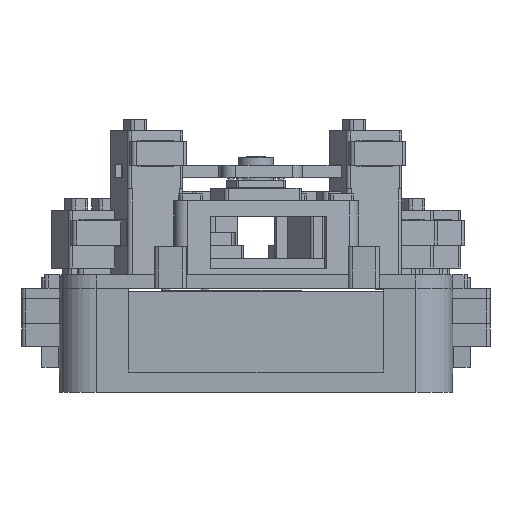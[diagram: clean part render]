
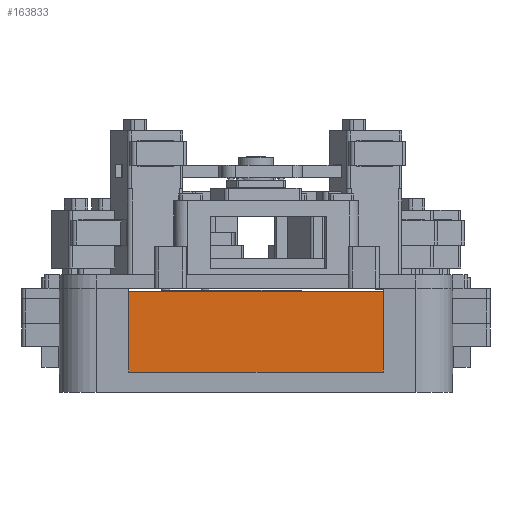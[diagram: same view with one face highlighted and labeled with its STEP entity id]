
A CAD part, left-side view. The second image highlights one B-rep face of the part: STEP entity #163833.
In plain terms, the highlighted planar face has unit normal (-1, 0, 0).
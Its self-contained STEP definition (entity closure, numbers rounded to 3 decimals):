
#163833 = ADVANCED_FACE('',(#163834),#163848,.F.);
#163834 = FACE_BOUND('',#163835,.F.);
#163835 = EDGE_LOOP('',(#163836,#163871,#163899,#163927));
#163836 = ORIENTED_EDGE('',*,*,#163837,.F.);
#163837 = EDGE_CURVE('',#163838,#163840,#163842,.T.);
#163838 = VERTEX_POINT('',#163839);
#163839 = CARTESIAN_POINT('',(-47.,-26.9,17.8));
#163840 = VERTEX_POINT('',#163841);
#163841 = CARTESIAN_POINT('',(-47.,26.9,17.8));
#163842 = SURFACE_CURVE('',#163843,(#163847,#163859),.PCURVE_S1.);
#163843 = LINE('',#163844,#163845);
#163844 = CARTESIAN_POINT('',(-47.,-31.,17.8));
#163845 = VECTOR('',#163846,1.);
#163846 = DIRECTION('',(0.,1.,0.));
#163847 = PCURVE('',#163848,#163853);
#163848 = PLANE('',#163849);
#163849 = AXIS2_PLACEMENT_3D('',#163850,#163851,#163852);
#163850 = CARTESIAN_POINT('',(-47.,-31.,2.8));
#163851 = DIRECTION('',(1.,0.,0.));
#163852 = DIRECTION('',(0.,0.,1.));
#163853 = DEFINITIONAL_REPRESENTATION('',(#163854),#163858);
#163854 = LINE('',#163855,#163856);
#163855 = CARTESIAN_POINT('',(15.,0.));
#163856 = VECTOR('',#163857,1.);
#163857 = DIRECTION('',(0.,-1.));
#163858 = ( GEOMETRIC_REPRESENTATION_CONTEXT(2) 
PARAMETRIC_REPRESENTATION_CONTEXT() REPRESENTATION_CONTEXT('2D SPACE',''
  ) );
#163859 = PCURVE('',#163860,#163865);
#163860 = PLANE('',#163861);
#163861 = AXIS2_PLACEMENT_3D('',#163862,#163863,#163864);
#163862 = CARTESIAN_POINT('',(-47.,-31.,17.8));
#163863 = DIRECTION('',(0.,0.,1.));
#163864 = DIRECTION('',(1.,0.,0.));
#163865 = DEFINITIONAL_REPRESENTATION('',(#163866),#163870);
#163866 = LINE('',#163867,#163868);
#163867 = CARTESIAN_POINT('',(0.,0.));
#163868 = VECTOR('',#163869,1.);
#163869 = DIRECTION('',(0.,1.));
#163870 = ( GEOMETRIC_REPRESENTATION_CONTEXT(2) 
PARAMETRIC_REPRESENTATION_CONTEXT() REPRESENTATION_CONTEXT('2D SPACE',''
  ) );
#163871 = ORIENTED_EDGE('',*,*,#163872,.F.);
#163872 = EDGE_CURVE('',#163873,#163838,#163875,.T.);
#163873 = VERTEX_POINT('',#163874);
#163874 = CARTESIAN_POINT('',(-47.,-26.9,2.8));
#163875 = SURFACE_CURVE('',#163876,(#163880,#163887),.PCURVE_S1.);
#163876 = LINE('',#163877,#163878);
#163877 = CARTESIAN_POINT('',(-47.,-26.9,2.8));
#163878 = VECTOR('',#163879,1.);
#163879 = DIRECTION('',(0.,0.,1.));
#163880 = PCURVE('',#163848,#163881);
#163881 = DEFINITIONAL_REPRESENTATION('',(#163882),#163886);
#163882 = LINE('',#163883,#163884);
#163883 = CARTESIAN_POINT('',(0.,-4.1));
#163884 = VECTOR('',#163885,1.);
#163885 = DIRECTION('',(1.,0.));
#163886 = ( GEOMETRIC_REPRESENTATION_CONTEXT(2) 
PARAMETRIC_REPRESENTATION_CONTEXT() REPRESENTATION_CONTEXT('2D SPACE',''
  ) );
#163887 = PCURVE('',#163888,#163893);
#163888 = CYLINDRICAL_SURFACE('',#163889,4.1);
#163889 = AXIS2_PLACEMENT_3D('',#163890,#163891,#163892);
#163890 = CARTESIAN_POINT('',(-42.9,-26.9,2.8));
#163891 = DIRECTION('',(0.,0.,1.));
#163892 = DIRECTION('',(-1.,-0.,0.));
#163893 = DEFINITIONAL_REPRESENTATION('',(#163894),#163898);
#163894 = LINE('',#163895,#163896);
#163895 = CARTESIAN_POINT('',(0.,0.));
#163896 = VECTOR('',#163897,1.);
#163897 = DIRECTION('',(0.,1.));
#163898 = ( GEOMETRIC_REPRESENTATION_CONTEXT(2) 
PARAMETRIC_REPRESENTATION_CONTEXT() REPRESENTATION_CONTEXT('2D SPACE',''
  ) );
#163899 = ORIENTED_EDGE('',*,*,#163900,.T.);
#163900 = EDGE_CURVE('',#163873,#163901,#163903,.T.);
#163901 = VERTEX_POINT('',#163902);
#163902 = CARTESIAN_POINT('',(-47.,26.9,2.8));
#163903 = SURFACE_CURVE('',#163904,(#163908,#163915),.PCURVE_S1.);
#163904 = LINE('',#163905,#163906);
#163905 = CARTESIAN_POINT('',(-47.,-31.,2.8));
#163906 = VECTOR('',#163907,1.);
#163907 = DIRECTION('',(0.,1.,0.));
#163908 = PCURVE('',#163848,#163909);
#163909 = DEFINITIONAL_REPRESENTATION('',(#163910),#163914);
#163910 = LINE('',#163911,#163912);
#163911 = CARTESIAN_POINT('',(0.,0.));
#163912 = VECTOR('',#163913,1.);
#163913 = DIRECTION('',(0.,-1.));
#163914 = ( GEOMETRIC_REPRESENTATION_CONTEXT(2) 
PARAMETRIC_REPRESENTATION_CONTEXT() REPRESENTATION_CONTEXT('2D SPACE',''
  ) );
#163915 = PCURVE('',#163916,#163921);
#163916 = PLANE('',#163917);
#163917 = AXIS2_PLACEMENT_3D('',#163918,#163919,#163920);
#163918 = CARTESIAN_POINT('',(-47.,-31.,2.8));
#163919 = DIRECTION('',(0.,0.,1.));
#163920 = DIRECTION('',(1.,0.,0.));
#163921 = DEFINITIONAL_REPRESENTATION('',(#163922),#163926);
#163922 = LINE('',#163923,#163924);
#163923 = CARTESIAN_POINT('',(0.,0.));
#163924 = VECTOR('',#163925,1.);
#163925 = DIRECTION('',(0.,1.));
#163926 = ( GEOMETRIC_REPRESENTATION_CONTEXT(2) 
PARAMETRIC_REPRESENTATION_CONTEXT() REPRESENTATION_CONTEXT('2D SPACE',''
  ) );
#163927 = ORIENTED_EDGE('',*,*,#163928,.T.);
#163928 = EDGE_CURVE('',#163901,#163840,#163929,.T.);
#163929 = SURFACE_CURVE('',#163930,(#163934,#163941),.PCURVE_S1.);
#163930 = LINE('',#163931,#163932);
#163931 = CARTESIAN_POINT('',(-47.,26.9,2.8));
#163932 = VECTOR('',#163933,1.);
#163933 = DIRECTION('',(0.,0.,1.));
#163934 = PCURVE('',#163848,#163935);
#163935 = DEFINITIONAL_REPRESENTATION('',(#163936),#163940);
#163936 = LINE('',#163937,#163938);
#163937 = CARTESIAN_POINT('',(0.,-57.9));
#163938 = VECTOR('',#163939,1.);
#163939 = DIRECTION('',(1.,0.));
#163940 = ( GEOMETRIC_REPRESENTATION_CONTEXT(2) 
PARAMETRIC_REPRESENTATION_CONTEXT() REPRESENTATION_CONTEXT('2D SPACE',''
  ) );
#163941 = PCURVE('',#163942,#163947);
#163942 = CYLINDRICAL_SURFACE('',#163943,4.1);
#163943 = AXIS2_PLACEMENT_3D('',#163944,#163945,#163946);
#163944 = CARTESIAN_POINT('',(-42.9,26.9,2.8));
#163945 = DIRECTION('',(0.,0.,1.));
#163946 = DIRECTION('',(-1.,-0.,0.));
#163947 = DEFINITIONAL_REPRESENTATION('',(#163948),#163952);
#163948 = LINE('',#163949,#163950);
#163949 = CARTESIAN_POINT('',(-0.,0.));
#163950 = VECTOR('',#163951,1.);
#163951 = DIRECTION('',(-0.,1.));
#163952 = ( GEOMETRIC_REPRESENTATION_CONTEXT(2) 
PARAMETRIC_REPRESENTATION_CONTEXT() REPRESENTATION_CONTEXT('2D SPACE',''
  ) );
